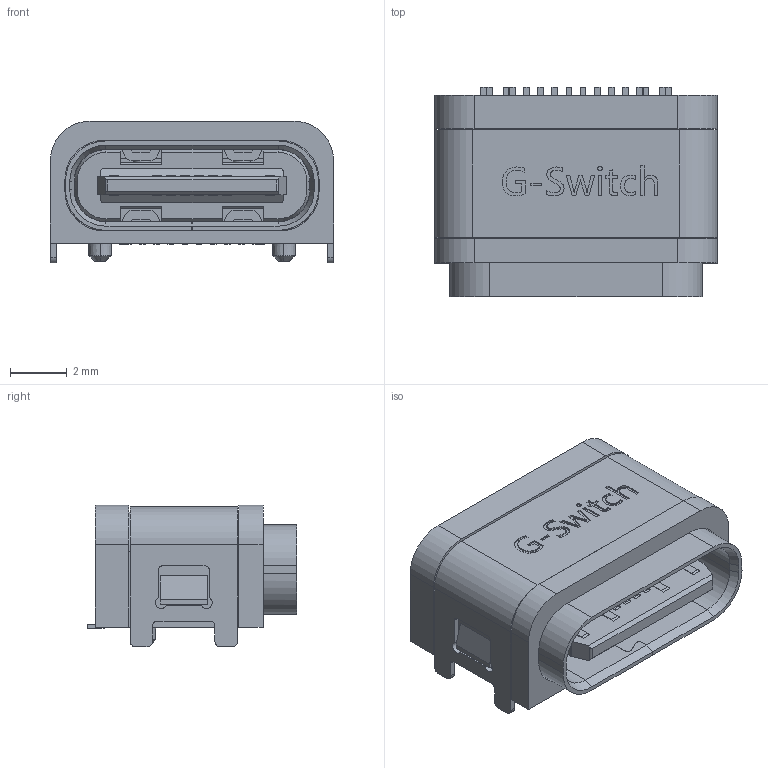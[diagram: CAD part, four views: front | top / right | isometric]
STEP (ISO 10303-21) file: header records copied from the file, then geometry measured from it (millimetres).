
FILE_DESCRIPTION (( 'STEP AP203' ), '1' );
FILE_NAME ('GT-USB-7070A02.STEP', '2023-03-23T10:17:04', ( '' ), ( '' ), 'SwSTEP 2.0', 'SolidWorks 2023', '' );
FILE_SCHEMA (( 'CONFIG_CONTROL_DESIGN' ));
Length unit declared in the file: millimetre
Products named in the file (1): GT-USB-7070A02
Bounding box: 10 x 7.42 x 5.01 mm (x, y, z)
Volume: 197.2 mm3; surface area: 817.7 mm2
Topology: 3 solids, 10 shells, 1026 faces, 2860 edges, 1870 vertices
Faces by surface type: plane 736, cylinder 208, bspline 48, cone 34
Entity records: 34904 total; most frequent: CARTESIAN_POINT 8428, ORIENTED_EDGE 5720, DIRECTION 5165, EDGE_CURVE 2860, LINE 2255, VECTOR 2255, VERTEX_POINT 1870, AXIS2_PLACEMENT_3D 1455
